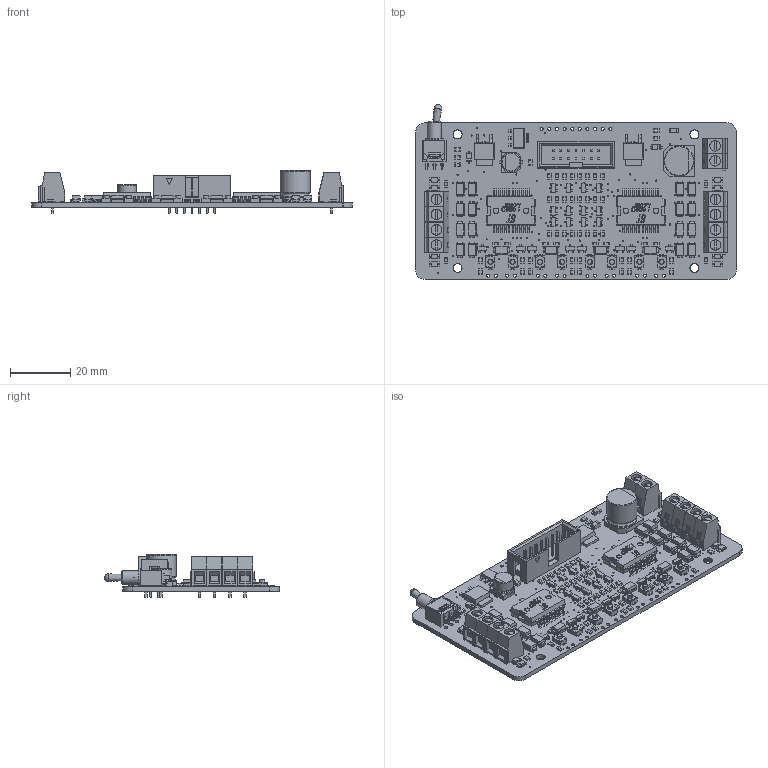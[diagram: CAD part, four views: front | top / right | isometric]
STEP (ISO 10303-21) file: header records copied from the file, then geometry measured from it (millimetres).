
FILE_DESCRIPTION(/* description */ (''),/* implementation_level */ '2;1');
FILE_NAME(/* name */ 'FD40A_.step',/* time_stamp */ '2023-06-08T15:03:38+08:00',/* author */ (''),/* organization */ (''),/* preprocessor_version */ 'ST-DEVELOPER v19.2',/* originating_system */ 'Autodesk Translation Framework v12.6.0.85',/* authorisation */ '');
FILE_SCHEMA (('AUTOMOTIVE_DESIGN { 1 0 10303 214 3 1 1 }'));
Products named in the file (22): FD40A; Board; Packages; SOT-223; ECAP-CHEMICON-F; ECAP-CHEMICON-J; SOD-123; SOD-123 (1); TL3XWO; POWERSO20; POWERSO20 (1); IDC-2X07; TERMINAL-KF127-2P; TERMINAL-KF127-3P-b_Green; TERMINAL-KF127-3P-a_Green; DPAK; SOT-23; CCAP-2012; D-SMA; LED-3216; R-2012; S-SW-PBM-KAN0444
Assembly tree (135 placements, depth 4):
  FD40A
    Board
    Packages
      SOT-223
      ECAP-CHEMICON-F
      ECAP-CHEMICON-J
      SOD-123
      SOD-123 (1)
      TL3XWO
      POWERSO20
      POWERSO20 (1)
      IDC-2X07
      TERMINAL-KF127-2P  x5
        TERMINAL-KF127-3P-b_Green
        TERMINAL-KF127-3P-a_Green
      DPAK  x2
      SOT-23  x20
      CCAP-2012  x2
      D-SMA  x20
      LED-3216  x9
      R-2012  x56
      S-SW-PBM-KAN0444  x8
Bounding box: 106.68 x 58.17 x 14.3 mm (x, y, z)
Volume: 16344.7 mm3; surface area: 24155.2 mm2
Topology: 146 solids, 146 shells, 6307 faces, 16866 edges, 10909 vertices
Faces by surface type: plane 4943, cylinder 1306, bspline 36, torus 16, sphere 3, cone 3
Full cylindrical faces by diameter (mm): 0.381 x240, 1.016 x40, 1.1 x15, 1.75 x8, 1.778 x4, 3 x1, 3.5 x12, 4.58 x1, 6 x1, 6.3 x2, 10 x2
Entity records: 90454 total; most frequent: CARTESIAN_POINT 16968, ORIENTED_EDGE 14622, DIRECTION 14473, EDGE_CURVE 7311, LINE 5629, VECTOR 5629, VERTEX_POINT 4735, AXIS2_PLACEMENT_3D 4422
